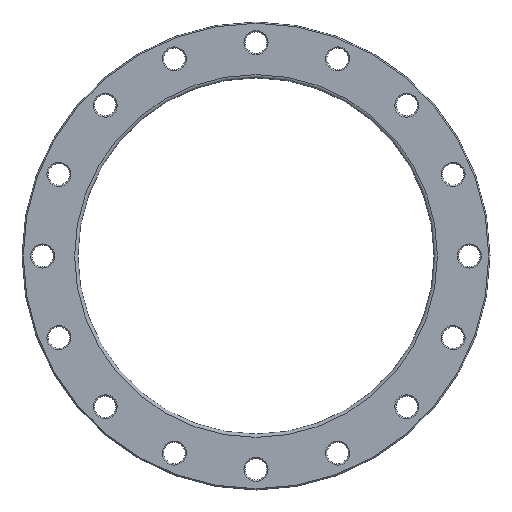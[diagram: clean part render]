
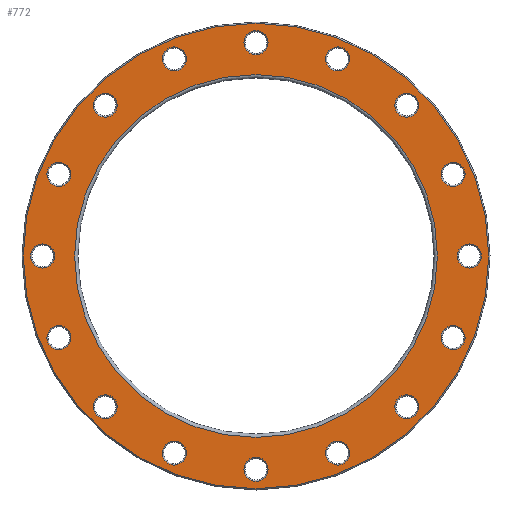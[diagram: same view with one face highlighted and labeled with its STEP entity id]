
A CAD part, front view. The second image highlights one B-rep face of the part: STEP entity #772.
In plain terms, the highlighted planar face has unit normal (0, -1, 0).
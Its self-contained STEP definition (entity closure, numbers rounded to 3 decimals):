
#23=PLANE('',#908);
#170=ORIENTED_EDGE('',*,*,#269,.T.);
#171=ORIENTED_EDGE('',*,*,#270,.T.);
#172=ORIENTED_EDGE('',*,*,#204,.T.);
#173=ORIENTED_EDGE('',*,*,#208,.T.);
#174=ORIENTED_EDGE('',*,*,#212,.T.);
#175=ORIENTED_EDGE('',*,*,#216,.T.);
#176=ORIENTED_EDGE('',*,*,#220,.T.);
#177=ORIENTED_EDGE('',*,*,#224,.T.);
#178=ORIENTED_EDGE('',*,*,#228,.T.);
#179=ORIENTED_EDGE('',*,*,#232,.T.);
#180=ORIENTED_EDGE('',*,*,#236,.T.);
#181=ORIENTED_EDGE('',*,*,#240,.T.);
#182=ORIENTED_EDGE('',*,*,#244,.T.);
#183=ORIENTED_EDGE('',*,*,#248,.T.);
#184=ORIENTED_EDGE('',*,*,#252,.T.);
#185=ORIENTED_EDGE('',*,*,#256,.T.);
#186=ORIENTED_EDGE('',*,*,#260,.T.);
#187=ORIENTED_EDGE('',*,*,#271,.T.);
#204=EDGE_CURVE('',#276,#276,#348,.T.);
#208=EDGE_CURVE('',#280,#280,#352,.T.);
#212=EDGE_CURVE('',#284,#284,#356,.T.);
#216=EDGE_CURVE('',#288,#288,#360,.T.);
#220=EDGE_CURVE('',#292,#292,#364,.T.);
#224=EDGE_CURVE('',#296,#296,#368,.T.);
#228=EDGE_CURVE('',#300,#300,#372,.T.);
#232=EDGE_CURVE('',#304,#304,#376,.T.);
#236=EDGE_CURVE('',#308,#308,#380,.T.);
#240=EDGE_CURVE('',#312,#312,#384,.T.);
#244=EDGE_CURVE('',#316,#316,#388,.T.);
#248=EDGE_CURVE('',#320,#320,#392,.T.);
#252=EDGE_CURVE('',#324,#324,#396,.T.);
#256=EDGE_CURVE('',#328,#328,#400,.T.);
#260=EDGE_CURVE('',#332,#332,#404,.T.);
#269=EDGE_CURVE('',#341,#341,#413,.F.);
#270=EDGE_CURVE('',#342,#342,#414,.T.);
#271=EDGE_CURVE('',#343,#343,#415,.T.);
#276=VERTEX_POINT('',#1187);
#280=VERTEX_POINT('',#1198);
#284=VERTEX_POINT('',#1209);
#288=VERTEX_POINT('',#1220);
#292=VERTEX_POINT('',#1231);
#296=VERTEX_POINT('',#1242);
#300=VERTEX_POINT('',#1253);
#304=VERTEX_POINT('',#1264);
#308=VERTEX_POINT('',#1275);
#312=VERTEX_POINT('',#1286);
#316=VERTEX_POINT('',#1297);
#320=VERTEX_POINT('',#1308);
#324=VERTEX_POINT('',#1319);
#328=VERTEX_POINT('',#1330);
#332=VERTEX_POINT('',#1341);
#341=VERTEX_POINT('',#1364);
#342=VERTEX_POINT('',#1366);
#343=VERTEX_POINT('',#1368);
#348=CIRCLE('',#797,14.5);
#352=CIRCLE('',#804,14.5);
#356=CIRCLE('',#811,14.5);
#360=CIRCLE('',#818,14.5);
#364=CIRCLE('',#825,14.5);
#368=CIRCLE('',#832,14.5);
#372=CIRCLE('',#839,14.5);
#376=CIRCLE('',#846,14.5);
#380=CIRCLE('',#853,14.5);
#384=CIRCLE('',#860,14.5);
#388=CIRCLE('',#867,14.5);
#392=CIRCLE('',#874,14.5);
#396=CIRCLE('',#881,14.5);
#400=CIRCLE('',#888,14.5);
#404=CIRCLE('',#895,14.5);
#413=CIRCLE('',#909,281.);
#414=CIRCLE('',#910,219.);
#415=CIRCLE('',#911,14.5);
#530=EDGE_LOOP('',(#170));
#531=EDGE_LOOP('',(#171));
#532=EDGE_LOOP('',(#172));
#533=EDGE_LOOP('',(#173));
#534=EDGE_LOOP('',(#174));
#535=EDGE_LOOP('',(#175));
#536=EDGE_LOOP('',(#176));
#537=EDGE_LOOP('',(#177));
#538=EDGE_LOOP('',(#178));
#539=EDGE_LOOP('',(#179));
#540=EDGE_LOOP('',(#180));
#541=EDGE_LOOP('',(#181));
#542=EDGE_LOOP('',(#182));
#543=EDGE_LOOP('',(#183));
#544=EDGE_LOOP('',(#184));
#545=EDGE_LOOP('',(#185));
#546=EDGE_LOOP('',(#186));
#547=EDGE_LOOP('',(#187));
#674=FACE_BOUND('',#530,.T.);
#675=FACE_BOUND('',#531,.T.);
#676=FACE_BOUND('',#532,.T.);
#677=FACE_BOUND('',#533,.T.);
#678=FACE_BOUND('',#534,.T.);
#679=FACE_BOUND('',#535,.T.);
#680=FACE_BOUND('',#536,.T.);
#681=FACE_BOUND('',#537,.T.);
#682=FACE_BOUND('',#538,.T.);
#683=FACE_BOUND('',#539,.T.);
#684=FACE_BOUND('',#540,.T.);
#685=FACE_BOUND('',#541,.T.);
#686=FACE_BOUND('',#542,.T.);
#687=FACE_BOUND('',#543,.T.);
#688=FACE_BOUND('',#544,.T.);
#689=FACE_BOUND('',#545,.T.);
#690=FACE_BOUND('',#546,.T.);
#691=FACE_BOUND('',#547,.T.);
#772=ADVANCED_FACE('',(#674,#675,#676,#677,#678,#679,#680,#681,#682,#683,
#684,#685,#686,#687,#688,#689,#690,#691),#23,.F.);
#797=AXIS2_PLACEMENT_3D('',#1186,#931,#932);
#804=AXIS2_PLACEMENT_3D('',#1197,#945,#946);
#811=AXIS2_PLACEMENT_3D('',#1208,#959,#960);
#818=AXIS2_PLACEMENT_3D('',#1219,#973,#974);
#825=AXIS2_PLACEMENT_3D('',#1230,#987,#988);
#832=AXIS2_PLACEMENT_3D('',#1241,#1001,#1002);
#839=AXIS2_PLACEMENT_3D('',#1252,#1015,#1016);
#846=AXIS2_PLACEMENT_3D('',#1263,#1029,#1030);
#853=AXIS2_PLACEMENT_3D('',#1274,#1043,#1044);
#860=AXIS2_PLACEMENT_3D('',#1285,#1057,#1058);
#867=AXIS2_PLACEMENT_3D('',#1296,#1071,#1072);
#874=AXIS2_PLACEMENT_3D('',#1307,#1085,#1086);
#881=AXIS2_PLACEMENT_3D('',#1318,#1099,#1100);
#888=AXIS2_PLACEMENT_3D('',#1329,#1113,#1114);
#895=AXIS2_PLACEMENT_3D('',#1340,#1127,#1128);
#908=AXIS2_PLACEMENT_3D('',#1362,#1153,#1154);
#909=AXIS2_PLACEMENT_3D('',#1363,#1155,#1156);
#910=AXIS2_PLACEMENT_3D('',#1365,#1157,#1158);
#911=AXIS2_PLACEMENT_3D('',#1367,#1159,#1160);
#931=DIRECTION('',(0.,1.,0.));
#932=DIRECTION('',(0.924,0.,0.383));
#945=DIRECTION('',(0.,1.,0.));
#946=DIRECTION('',(0.707,0.,0.707));
#959=DIRECTION('',(0.,1.,0.));
#960=DIRECTION('',(0.383,0.,0.924));
#973=DIRECTION('',(0.,1.,0.));
#974=DIRECTION('',(0.,0.,1.));
#987=DIRECTION('',(0.,1.,0.));
#988=DIRECTION('',(-0.383,0.,0.924));
#1001=DIRECTION('',(0.,1.,0.));
#1002=DIRECTION('',(-0.707,0.,0.707));
#1015=DIRECTION('',(0.,1.,0.));
#1016=DIRECTION('',(-0.924,0.,0.383));
#1029=DIRECTION('',(0.,1.,0.));
#1030=DIRECTION('',(-1.,0.,0.));
#1043=DIRECTION('',(0.,1.,0.));
#1044=DIRECTION('',(-0.924,0.,-0.383));
#1057=DIRECTION('',(0.,1.,0.));
#1058=DIRECTION('',(-0.707,0.,-0.707));
#1071=DIRECTION('',(0.,1.,0.));
#1072=DIRECTION('',(-0.383,0.,-0.924));
#1085=DIRECTION('',(0.,1.,0.));
#1086=DIRECTION('',(0.,0.,-1.));
#1099=DIRECTION('',(0.,1.,0.));
#1100=DIRECTION('',(0.383,0.,-0.924));
#1113=DIRECTION('',(0.,1.,0.));
#1114=DIRECTION('',(0.707,0.,-0.707));
#1127=DIRECTION('',(0.,1.,0.));
#1128=DIRECTION('',(0.924,0.,-0.383));
#1153=DIRECTION('',(0.,1.,0.));
#1154=DIRECTION('',(0.,0.,1.));
#1155=DIRECTION('',(0.,1.,0.));
#1156=DIRECTION('',(0.,0.,1.));
#1157=DIRECTION('',(0.,1.,0.));
#1158=DIRECTION('',(0.,0.,1.));
#1159=DIRECTION('',(0.,1.,0.));
#1160=DIRECTION('',(1.,0.,0.));
#1186=CARTESIAN_POINT('',(-98.541,0.,237.899));
#1187=CARTESIAN_POINT('',(-85.145,0.,243.448));
#1197=CARTESIAN_POINT('',(-182.08,0.,182.08));
#1198=CARTESIAN_POINT('',(-171.827,0.,192.333));
#1208=CARTESIAN_POINT('',(-237.899,0.,98.541));
#1209=CARTESIAN_POINT('',(-232.35,0.,111.937));
#1219=CARTESIAN_POINT('',(-257.5,0.,0.));
#1220=CARTESIAN_POINT('',(-257.5,0.,14.5));
#1230=CARTESIAN_POINT('',(-237.899,0.,-98.541));
#1231=CARTESIAN_POINT('',(-243.448,0.,-85.145));
#1241=CARTESIAN_POINT('',(-182.08,0.,-182.08));
#1242=CARTESIAN_POINT('',(-192.333,0.,-171.827));
#1252=CARTESIAN_POINT('',(-98.541,0.,-237.899));
#1253=CARTESIAN_POINT('',(-111.937,0.,-232.35));
#1263=CARTESIAN_POINT('',(0.,0.,-257.5));
#1264=CARTESIAN_POINT('',(-14.5,0.,-257.5));
#1274=CARTESIAN_POINT('',(98.541,0.,-237.899));
#1275=CARTESIAN_POINT('',(85.145,0.,-243.448));
#1285=CARTESIAN_POINT('',(182.08,0.,-182.08));
#1286=CARTESIAN_POINT('',(171.827,0.,-192.333));
#1296=CARTESIAN_POINT('',(237.899,0.,-98.541));
#1297=CARTESIAN_POINT('',(232.35,0.,-111.937));
#1307=CARTESIAN_POINT('',(257.5,0.,0.));
#1308=CARTESIAN_POINT('',(257.5,0.,-14.5));
#1318=CARTESIAN_POINT('',(237.899,0.,98.541));
#1319=CARTESIAN_POINT('',(243.448,0.,85.145));
#1329=CARTESIAN_POINT('',(182.08,0.,182.08));
#1330=CARTESIAN_POINT('',(192.333,0.,171.827));
#1340=CARTESIAN_POINT('',(98.541,0.,237.899));
#1341=CARTESIAN_POINT('',(111.937,0.,232.35));
#1362=CARTESIAN_POINT('',(0.,0.,0.));
#1363=CARTESIAN_POINT('',(0.,0.,0.));
#1364=CARTESIAN_POINT('',(0.,0.,281.));
#1365=CARTESIAN_POINT('',(0.,0.,0.));
#1366=CARTESIAN_POINT('',(0.,0.,219.));
#1367=CARTESIAN_POINT('',(0.,0.,257.5));
#1368=CARTESIAN_POINT('',(14.5,0.,257.5));
